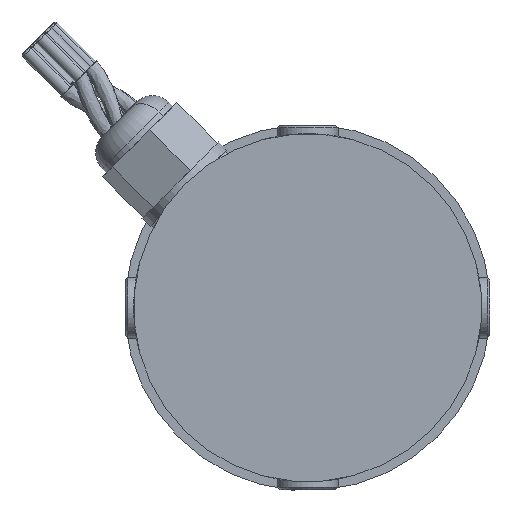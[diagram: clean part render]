
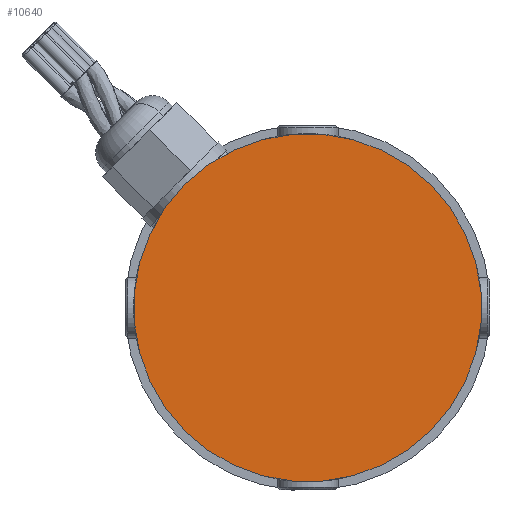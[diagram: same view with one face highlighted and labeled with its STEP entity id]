
A CAD part, left-side view. The second image highlights one B-rep face of the part: STEP entity #10640.
In plain terms, the highlighted planar face has unit normal (-1, 0, 0).
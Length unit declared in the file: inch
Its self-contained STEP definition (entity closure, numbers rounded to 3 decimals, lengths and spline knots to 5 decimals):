
#464 = DIRECTION ( 'NONE',  ( 1., 0., 0. ) ) ;
#689 = CARTESIAN_POINT ( 'NONE',  ( -2.13486, 4.07875, 4.98317 ) ) ;
#1221 = EDGE_CURVE ( 'NONE', #3046, #5405, #2245, .T. ) ;
#1416 = PLANE ( 'NONE',  #8182 ) ;
#2245 = CIRCLE ( 'NONE', #11328, 1.51594 ) ;
#3046 = VERTEX_POINT ( 'NONE', #689 ) ;
#3334 = EDGE_CURVE ( 'NONE', #5405, #3046, #6370, .T. ) ;
#3337 = FACE_OUTER_BOUND ( 'NONE', #5701, .T. ) ;
#4398 = CARTESIAN_POINT ( 'NONE',  ( -2.13486, 1.93488, 7.12704 ) ) ;
#5405 = VERTEX_POINT ( 'NONE', #4398 ) ;
#5701 = EDGE_LOOP ( 'NONE', ( #9773, #8501 ) ) ;
#6136 = DIRECTION ( 'NONE',  ( 0., -0.707, 0.707 ) ) ;
#6370 = CIRCLE ( 'NONE', #10880, 1.51594 ) ;
#7006 = CARTESIAN_POINT ( 'NONE',  ( -2.13486, 3.00682, 6.0551 ) ) ;
#7132 = DIRECTION ( 'NONE',  ( 1., 0., 0. ) ) ;
#8182 = AXIS2_PLACEMENT_3D ( 'NONE', #8357, #7132, #6136 ) ;
#8357 = CARTESIAN_POINT ( 'NONE',  ( -2.13486, 3.00682, 6.0551 ) ) ;
#8501 = ORIENTED_EDGE ( 'NONE', *, *, #3334, .F. ) ;
#8709 = CARTESIAN_POINT ( 'NONE',  ( -2.13486, 3.00682, 6.0551 ) ) ;
#9172 = DIRECTION ( 'NONE',  ( 0., -0.707, 0.707 ) ) ;
#9693 = DIRECTION ( 'NONE',  ( 0., -0.707, 0.707 ) ) ;
#9773 = ORIENTED_EDGE ( 'NONE', *, *, #1221, .F. ) ;
#10640 = ADVANCED_FACE ( 'NONE', ( #3337 ), #1416, .F. ) ;
#10880 = AXIS2_PLACEMENT_3D ( 'NONE', #7006, #464, #9172 ) ;
#11328 = AXIS2_PLACEMENT_3D ( 'NONE', #8709, #13121, #9693 ) ;
#13121 = DIRECTION ( 'NONE',  ( 1., 0., 0. ) ) ;
